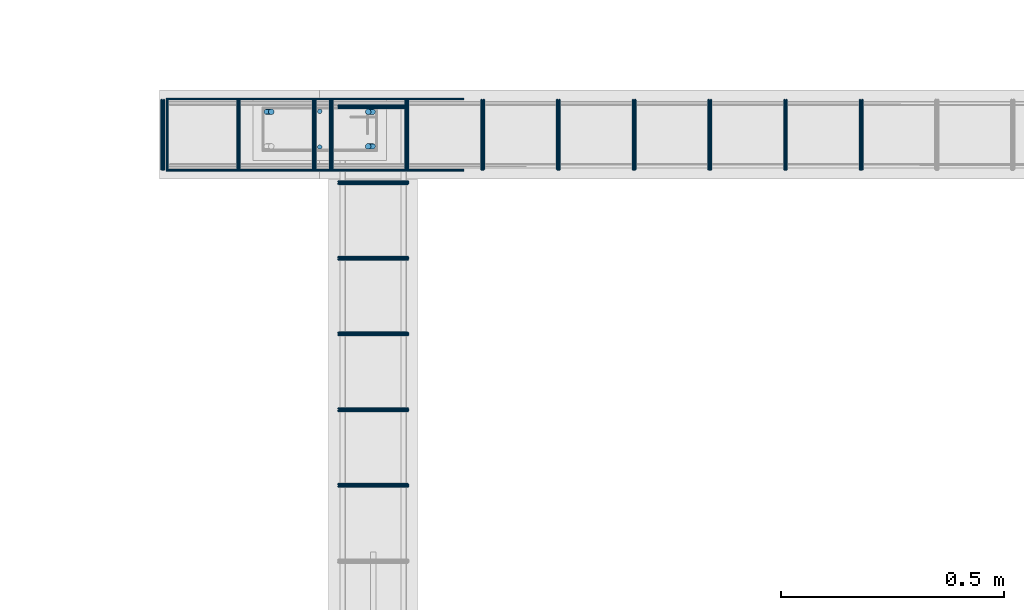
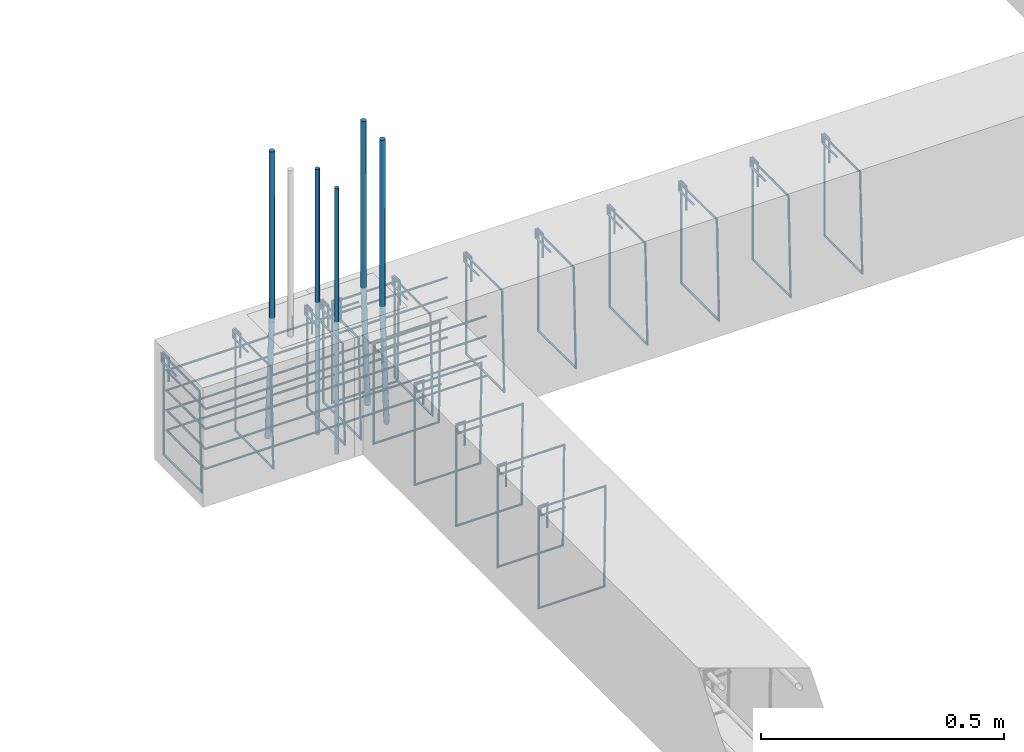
# One storey, part 116 of 150: 26 reinforcing bars.
"""IFC4 building model written with IfcOpenShell, lengths in centimetres."""

from ifc_helpers import new_model, entity, si_unit, derived_unit, frame, origin_with_axes, place, context, project, spatial, source, transform, mapped, element, save


model = new_model("IFC4")

# Units and contexts
model_context = context("Model", 3, precision=1e-05, world=origin_with_axes(), identifier="Body")
ifc_project = project(units=[si_unit("LENGTHUNIT", "METRE", prefix="CENTI"), si_unit("VOLUMEUNIT", "CUBIC_METRE"), si_unit("AREAUNIT", "SQUARE_METRE"), si_unit("POWERUNIT", "WATT"), si_unit("LUMINOUSFLUXUNIT", "LUMEN"), si_unit("ELECTRICCURRENTUNIT", "AMPERE"), si_unit("PRESSUREUNIT", "PASCAL", prefix="KILO"), si_unit("MASSUNIT", "GRAM", prefix="KILO"), si_unit("PLANEANGLEUNIT", "RADIAN"), derived_unit("VOLUMETRICFLOWRATEUNIT", [(si_unit("LENGTHUNIT", "METRE"), 3), (si_unit("TIMEUNIT", "SECOND"), -1)])], contexts=[model_context])

# Site, building, storey
site_placement = place(None, frame((-4000.0, 0.0, 0.0), z_axis=(0.0, 0.0, 1.0), x_axis=(1.0, 0.0, 0.0)))
site = spatial("IfcSite", under=ifc_project, at=site_placement, Name="PADRÃO")
building_placement = place(site_placement, frame((0.0, 0.0, -14.0)))
building = spatial("IfcBuilding", under=site, at=building_placement, Name="CRECHE PRÉ-ESCOLA TIPO 2")
placement = place(building_placement, origin_with_axes())
storey_placement = place(placement, frame((0.0, 0.0, 30.0), z_axis=(0.0, 0.0, 1.0), x_axis=(1.0, 0.0, 0.0)))
storey = spatial("IfcBuildingStorey", under=building, at=storey_placement, Name="VIGA BALDRAME", CompositionType="ELEMENT", Elevation=16.0)

# Reinforcing bars
shared_shape_1 = source(origin_with_axes(), model_context, "Body", "AdvancedSweptSolid", [
    entity("IfcSweptDiskSolid", entity("IfcCompositeCurve", [entity("IfcCompositeCurveSegment", "CONTINUOUS", True, entity("IfcPolyline", [entity("IfcCartesianPoint", [2.0, -6.0, 0.0]), entity("IfcCartesianPoint", [2.0, 0.0, 0.0])])), entity("IfcCompositeCurveSegment", "CONTINUOUS", True, entity("IfcPolyline", [entity("IfcCartesianPoint", [2.0, 0.0, 0.0]), entity("IfcCartesianPoint", [0.0, 0.0, 0.0])])), entity("IfcCompositeCurveSegment", "CONTINUOUS", True, entity("IfcPolyline", [entity("IfcCartesianPoint", [0.0, 0.0, 0.0]), entity("IfcCartesianPoint", [0.0, -25.5, 0.0])])), entity("IfcCompositeCurveSegment", "CONTINUOUS", True, entity("IfcPolyline", [entity("IfcCartesianPoint", [0.0, -25.5, 0.0]), entity("IfcCartesianPoint", [15.5, -25.5, 0.0])])), entity("IfcCompositeCurveSegment", "CONTINUOUS", True, entity("IfcPolyline", [entity("IfcCartesianPoint", [15.5, -25.5, 0.0]), entity("IfcCartesianPoint", [15.5, 0.0, 0.5])])), entity("IfcCompositeCurveSegment", "CONTINUOUS", True, entity("IfcPolyline", [entity("IfcCartesianPoint", [15.5, 0.0, 0.5]), entity("IfcCartesianPoint", [0.0, 0.0, 0.5])])), entity("IfcCompositeCurveSegment", "CONTINUOUS", True, entity("IfcPolyline", [entity("IfcCartesianPoint", [0.0, 0.0, 0.5]), entity("IfcCartesianPoint", [0.0, -2.0, 0.5])])), entity("IfcCompositeCurveSegment", "CONTINUOUS", True, entity("IfcPolyline", [entity("IfcCartesianPoint", [0.0, -2.0, 0.5]), entity("IfcCartesianPoint", [6.0, -2.0, 0.5])]))], False), 0.25),
])
for number, where, z_axis, x_axis, name in (
    (1, (266.015, 3991.5, -2.25), (-1.0, 0.0, 0.0), (0.0, -1.0, 0.0), "V104 - Estribo"),
    (2, (232.015, 3991.5, -2.25), (-1.0, 0.0, 0.0), (0.0, -1.0, 0.0), "V104 - Estribo"),
    (3, (249.015, 3991.5, -2.25), (-1.0, 0.0, 0.0), (0.0, -1.0, 0.0), "V104 - Estribo"),
):
    element("IfcReinforcingBar", number, at=place(storey_placement, frame(where, z_axis=z_axis, x_axis=x_axis)), inside=storey, Name=name, BarLength=0.0, CrossSectionArea=1.9634954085e-05, NominalDiameter=0.5, PredefinedType="MAIN", context=model_context, shape_type="MappedRepresentation", body=[
        mapped(shared_shape_1, transform((0.0, 0.0, 0.0), scale=1.0)),
    ])
shared_shape_2 = source(origin_with_axes(), model_context, "Body", "AdvancedSweptSolid", [
    entity("IfcSweptDiskSolid", entity("IfcCompositeCurve", [entity("IfcCompositeCurveSegment", "CONTINUOUS", True, entity("IfcPolyline", [entity("IfcCartesianPoint", [2.0, -6.0, 0.0]), entity("IfcCartesianPoint", [2.0, 0.0, 0.0])])), entity("IfcCompositeCurveSegment", "CONTINUOUS", True, entity("IfcPolyline", [entity("IfcCartesianPoint", [2.0, 0.0, 0.0]), entity("IfcCartesianPoint", [0.0, 0.0, 0.0])])), entity("IfcCompositeCurveSegment", "CONTINUOUS", True, entity("IfcPolyline", [entity("IfcCartesianPoint", [0.0, 0.0, 0.0]), entity("IfcCartesianPoint", [0.0, -25.5, 0.0])])), entity("IfcCompositeCurveSegment", "CONTINUOUS", True, entity("IfcPolyline", [entity("IfcCartesianPoint", [0.0, -25.5, 0.0]), entity("IfcCartesianPoint", [15.5, -25.5, 0.0])])), entity("IfcCompositeCurveSegment", "CONTINUOUS", True, entity("IfcPolyline", [entity("IfcCartesianPoint", [15.5, -25.5, 0.0]), entity("IfcCartesianPoint", [15.5, 0.0, 0.5])])), entity("IfcCompositeCurveSegment", "CONTINUOUS", True, entity("IfcPolyline", [entity("IfcCartesianPoint", [15.5, 0.0, 0.5]), entity("IfcCartesianPoint", [0.0, 0.0, 0.5])])), entity("IfcCompositeCurveSegment", "CONTINUOUS", True, entity("IfcPolyline", [entity("IfcCartesianPoint", [0.0, 0.0, 0.5]), entity("IfcCartesianPoint", [0.0, -2.0, 0.5])])), entity("IfcCompositeCurveSegment", "CONTINUOUS", True, entity("IfcPolyline", [entity("IfcCartesianPoint", [0.0, -2.0, 0.5]), entity("IfcCartesianPoint", [6.0, -2.0, 0.5])]))], False), 0.25),
])
for number, where, z_axis, x_axis, name in (
    (4, (320.835, 3991.5, -2.25), (-1.0, 0.0, 0.0), (0.0, -1.0, 0.0), "V104 - Estribo"),
    (5, (269.835, 3991.5, -2.25), (-1.0, 0.0, 0.0), (0.0, -1.0, 0.0), "V104 - Estribo"),
    (6, (286.835, 3991.5, -2.25), (-1.0, 0.0, 0.0), (0.0, -1.0, 0.0), "V104 - Estribo"),
    (7, (303.835, 3991.5, -2.25), (-1.0, 0.0, 0.0), (0.0, -1.0, 0.0), "V104 - Estribo"),
    (8, (388.835, 3991.5, -2.25), (-1.0, 0.0, 0.0), (0.0, -1.0, 0.0), "V104 - Estribo"),
    (9, (354.835, 3991.5, -2.25), (-1.0, 0.0, 0.0), (0.0, -1.0, 0.0), "V104 - Estribo"),
    (10, (337.835, 3991.5, -2.25), (-1.0, 0.0, 0.0), (0.0, -1.0, 0.0), "V104 - Estribo"),
    (11, (371.835, 3991.5, -2.25), (-1.0, 0.0, 0.0), (0.0, -1.0, 0.0), "V104 - Estribo"),
):
    element("IfcReinforcingBar", number, at=place(storey_placement, frame(where, z_axis=z_axis, x_axis=x_axis)), inside=storey, Name=name, BarLength=0.0, CrossSectionArea=1.9634954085e-05, NominalDiameter=0.5, PredefinedType="MAIN", context=model_context, shape_type="MappedRepresentation", body=[
        mapped(shared_shape_2, transform((0.0, 0.0, 0.0), scale=1.0)),
    ])
shared_shape_3 = source(origin_with_axes(), model_context, "Body", "AdvancedSweptSolid", [
    entity("IfcSweptDiskSolid", entity("IfcCompositeCurve", [entity("IfcCompositeCurveSegment", "CONTINUOUS", True, entity("IfcPolyline", [entity("IfcCartesianPoint", [0.0, 0.0, 0.0]), entity("IfcCartesianPoint", [-66.6713828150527, 0.0, 0.0])])), entity("IfcCompositeCurveSegment", "CONTINUOUS", True, entity("IfcPolyline", [entity("IfcCartesianPoint", [-66.6713828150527, 0.0, 0.0]), entity("IfcCartesianPoint", [-66.671382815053, -16.0, 0.0])])), entity("IfcCompositeCurveSegment", "CONTINUOUS", True, entity("IfcPolyline", [entity("IfcCartesianPoint", [-66.671382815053, -16.0, 0.0]), entity("IfcCartesianPoint", [0.0, -16.0, 0.0])]))], False), 0.25),
])
for number, where, z_axis, x_axis, name in (
    (12, (299.451382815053, 3991.75, -17.1), (0.0, 0.0, 1.0), (1.0, 0.0, 0.0), "V104 - Grampo"),
    (13, (299.451382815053, 3991.75, -22.1), (0.0, 0.0, 1.0), (1.0, 0.0, 0.0), "V104 - Grampo"),
    (14, (299.451382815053, 3991.75, -12.1), (0.0, 0.0, 1.0), (1.0, 0.0, 0.0), "V104 - Grampo"),
    (15, (299.451382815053, 3991.75, -7.1), (0.0, 0.0, 1.0), (1.0, 0.0, 0.0), "V104 - Grampo"),
):
    element("IfcReinforcingBar", number, at=place(storey_placement, frame(where, z_axis=z_axis, x_axis=x_axis)), inside=storey, Name=name, BarLength=0.0, CrossSectionArea=1.9634954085e-05, NominalDiameter=0.5, PredefinedType="MAIN", context=model_context, shape_type="MappedRepresentation", body=[
        mapped(shared_shape_3, transform((0.0, 0.0, 0.0), scale=1.0)),
    ])
shared_shape_4 = source(origin_with_axes(), model_context, "Body", "AdvancedSweptSolid", [
    entity("IfcSweptDiskSolid", entity("IfcCompositeCurve", [entity("IfcCompositeCurveSegment", "CONTINUOUS", True, entity("IfcPolyline", [entity("IfcCartesianPoint", [2.0, -6.0, 0.0]), entity("IfcCartesianPoint", [2.0, 0.0, 0.0])])), entity("IfcCompositeCurveSegment", "CONTINUOUS", True, entity("IfcPolyline", [entity("IfcCartesianPoint", [2.0, 0.0, 0.0]), entity("IfcCartesianPoint", [0.0, 0.0, 0.0])])), entity("IfcCompositeCurveSegment", "CONTINUOUS", True, entity("IfcPolyline", [entity("IfcCartesianPoint", [0.0, 0.0, 0.0]), entity("IfcCartesianPoint", [0.0, -25.5, 0.0])])), entity("IfcCompositeCurveSegment", "CONTINUOUS", True, entity("IfcPolyline", [entity("IfcCartesianPoint", [0.0, -25.5, 0.0]), entity("IfcCartesianPoint", [15.5, -25.5, 0.0])])), entity("IfcCompositeCurveSegment", "CONTINUOUS", True, entity("IfcPolyline", [entity("IfcCartesianPoint", [15.5, -25.5, 0.0]), entity("IfcCartesianPoint", [15.5, 0.0, 0.5])])), entity("IfcCompositeCurveSegment", "CONTINUOUS", True, entity("IfcPolyline", [entity("IfcCartesianPoint", [15.5, 0.0, 0.5]), entity("IfcCartesianPoint", [0.0, 0.0, 0.5])])), entity("IfcCompositeCurveSegment", "CONTINUOUS", True, entity("IfcPolyline", [entity("IfcCartesianPoint", [0.0, 0.0, 0.5]), entity("IfcCartesianPoint", [0.0, -2.0, 0.5])])), entity("IfcCompositeCurveSegment", "CONTINUOUS", True, entity("IfcPolyline", [entity("IfcCartesianPoint", [0.0, -2.0, 0.5]), entity("IfcCartesianPoint", [6.0, -2.0, 0.5])]))], False), 0.25),
])
for number, where, z_axis, x_axis, name in (
    (16, (271.25, 3973.25, -2.25), (0.0, -1.0, 0.0), (1.0, 0.0, 0.0), "V165 - Estribo"),
    (17, (271.25, 3990.25, -2.25), (0.0, -1.0, 0.0), (1.0, 0.0, 0.0), "V165 - Estribo"),
    (18, (271.25, 3956.25, -2.25), (0.0, -1.0, 0.0), (1.0, 0.0, 0.0), "V165 - Estribo"),
    (19, (271.25, 3939.25, -2.25), (0.0, -1.0, 0.0), (1.0, 0.0, 0.0), "V165 - Estribo"),
    (20, (271.25, 3922.25, -2.25), (0.0, -1.0, 0.0), (1.0, 0.0, 0.0), "V165 - Estribo"),
    (21, (271.25, 3905.25, -2.25), (0.0, -1.0, 0.0), (1.0, 0.0, 0.0), "V165 - Estribo"),
):
    element("IfcReinforcingBar", number, at=place(storey_placement, frame(where, z_axis=z_axis, x_axis=x_axis)), inside=storey, Name=name, BarLength=0.0, CrossSectionArea=1.9634954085e-05, NominalDiameter=0.5, PredefinedType="MAIN", context=model_context, shape_type="MappedRepresentation", body=[
        mapped(shared_shape_4, transform((0.0, 0.0, 0.0), scale=1.0)),
    ])
reinforcing_bar_1_placement = place(storey_placement, frame((267.0, 3989.0, 33.3573001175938), z_axis=(0.0, 0.0, 1.0), x_axis=(1.0, 0.0, 0.0)))
element("IfcReinforcingBar", 22, at=reinforcing_bar_1_placement, inside=storey, Name="P23 - Longitudinal", BarLength=0.0, CrossSectionArea=7.853981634e-05, NominalDiameter=1.0, PredefinedType="MAIN", context=model_context, shape_type="AdvancedSweptSolid", body=[
    entity("IfcSweptDiskSolid", entity("IfcCompositeCurve", [entity("IfcCompositeCurveSegment", "CONTINUOUS", True, entity("IfcPolyline", [entity("IfcCartesianPoint", [0.0, 0.0, -66.7146002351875]), entity("IfcCartesianPoint", [0.0, 0.0, 0.0])]))], False), 0.5),
])
reinforcing_bar_2_placement = place(storey_placement, frame((255.625173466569, 3988.875, 41.6966251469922), z_axis=(0.0, 0.0, 1.0), x_axis=(1.0, 0.0, 0.0)))
element("IfcReinforcingBar", 23, at=reinforcing_bar_2_placement, inside=storey, Name="P23 - Longitudinal", BarLength=0.0, CrossSectionArea=0.000122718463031, NominalDiameter=1.25, PredefinedType="MAIN", context=model_context, shape_type="AdvancedSweptSolid", body=[
    entity("IfcSweptDiskSolid", entity("IfcCompositeCurve", [entity("IfcCompositeCurveSegment", "CONTINUOUS", True, entity("IfcPolyline", [entity("IfcCartesianPoint", [-0.500173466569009, 0.0, -71.6966251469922]), entity("IfcCartesianPoint", [0.499826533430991, 0.0, -41.6966251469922])])), entity("IfcCompositeCurveSegment", "CONTINUOUS", True, entity("IfcPolyline", [entity("IfcCartesianPoint", [0.499826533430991, 0.0, -41.6966251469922]), entity("IfcCartesianPoint", [0.499826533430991, 0.0, 0.0])]))], False), 0.625),
])
for number, where, z_axis, x_axis, name in (
    (24, (278.374826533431, 3981.125, 41.6966251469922), (0.0, 0.0, 1.0), (1.0, 0.0, 0.0), "P23 - Longitudinal"),
    (25, (278.374826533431, 3988.875, 41.6966251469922), (0.0, 0.0, 1.0), (1.0, 0.0, 0.0), "P23 - Longitudinal"),
):
    element("IfcReinforcingBar", number, at=place(storey_placement, frame(where, z_axis=z_axis, x_axis=x_axis)), inside=storey, Name=name, BarLength=0.0, CrossSectionArea=0.000122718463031, NominalDiameter=1.25, PredefinedType="MAIN", context=model_context, shape_type="AdvancedSweptSolid", body=[
        entity("IfcSweptDiskSolid", entity("IfcCompositeCurve", [entity("IfcCompositeCurveSegment", "CONTINUOUS", True, entity("IfcPolyline", [entity("IfcCartesianPoint", [0.500173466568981, 0.0, -71.6966251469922]), entity("IfcCartesianPoint", [-0.499826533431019, 0.0, -41.6966251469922])])), entity("IfcCompositeCurveSegment", "CONTINUOUS", True, entity("IfcPolyline", [entity("IfcCartesianPoint", [-0.499826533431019, 0.0, -41.6966251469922]), entity("IfcCartesianPoint", [-0.499826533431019, 0.0, 0.0])]))], False), 0.625),
    ])
reinforcing_bar_3_placement = place(storey_placement, frame((267.0, 3981.0, 33.3573001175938), z_axis=(0.0, 0.0, 1.0), x_axis=(1.0, 0.0, 0.0)))
element("IfcReinforcingBar", 26, at=reinforcing_bar_3_placement, inside=storey, Name="P23 - Longitudinal", BarLength=0.0, CrossSectionArea=7.853981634e-05, NominalDiameter=1.0, PredefinedType="MAIN", context=model_context, shape_type="AdvancedSweptSolid", body=[
    entity("IfcSweptDiskSolid", entity("IfcCompositeCurve", [entity("IfcCompositeCurveSegment", "CONTINUOUS", True, entity("IfcPolyline", [entity("IfcCartesianPoint", [0.0, 0.0, -66.7146002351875]), entity("IfcCartesianPoint", [0.0, 0.0, 0.0])]))], False), 0.5),
])

save(model, "model.ifc")
